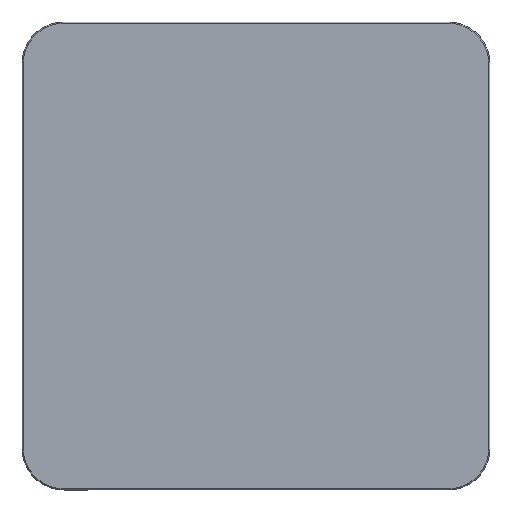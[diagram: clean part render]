
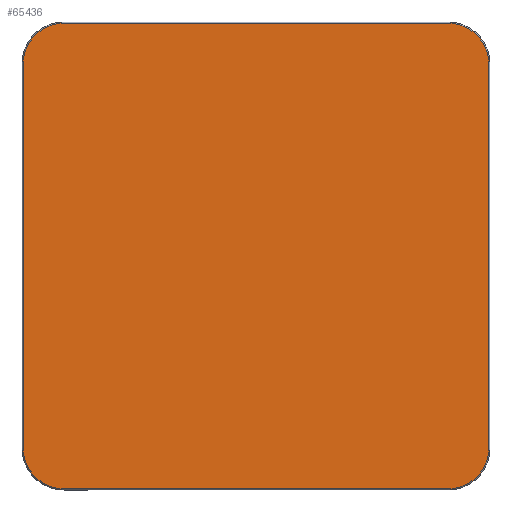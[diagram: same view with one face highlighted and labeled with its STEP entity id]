
A CAD part, top view. The second image highlights one B-rep face of the part: STEP entity #65436.
In plain terms, the highlighted planar face has unit normal (0, 0, 1) as drawn and (0, -1, 0) by its records, which use the part's own axes.
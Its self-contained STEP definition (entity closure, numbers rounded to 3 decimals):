
#6342=FACE_OUTER_BOUND('',#10155,.T.);
#10155=EDGE_LOOP('',(#49329,#49330,#49331,#49332,#49333,#49334,#49335,#49336));
#13434=CIRCLE('',#70560,7.4);
#13435=CIRCLE('',#70563,7.4);
#13437=CIRCLE('',#70567,7.4);
#13439=CIRCLE('',#70571,7.4);
#16230=LINE('',#108374,#22126);
#16233=LINE('',#108382,#22129);
#16237=LINE('',#108392,#22133);
#16241=LINE('',#108404,#22137);
#22126=VECTOR('',#79938,69.378);
#22129=VECTOR('',#79947,69.378);
#22133=VECTOR('',#79957,69.378);
#22137=VECTOR('',#79969,69.378);
#28451=VERTEX_POINT('',#108370);
#28452=VERTEX_POINT('',#108372);
#28453=VERTEX_POINT('',#108376);
#28454=VERTEX_POINT('',#108380);
#28455=VERTEX_POINT('',#108384);
#28456=VERTEX_POINT('',#108388);
#28458=VERTEX_POINT('',#108394);
#28460=VERTEX_POINT('',#108400);
#36109=EDGE_CURVE('',#28452,#28451,#16230,.T.);
#36111=EDGE_CURVE('',#28451,#28453,#13434,.T.);
#36113=EDGE_CURVE('',#28453,#28454,#16233,.T.);
#36115=EDGE_CURVE('',#28454,#28455,#13435,.T.);
#36118=EDGE_CURVE('',#28455,#28456,#16237,.T.);
#36121=EDGE_CURVE('',#28456,#28458,#13437,.T.);
#36124=EDGE_CURVE('',#28458,#28460,#16241,.T.);
#36126=EDGE_CURVE('',#28460,#28452,#13439,.T.);
#49329=ORIENTED_EDGE('',*,*,#36109,.F.);
#49330=ORIENTED_EDGE('',*,*,#36126,.F.);
#49331=ORIENTED_EDGE('',*,*,#36124,.F.);
#49332=ORIENTED_EDGE('',*,*,#36121,.F.);
#49333=ORIENTED_EDGE('',*,*,#36118,.F.);
#49334=ORIENTED_EDGE('',*,*,#36115,.F.);
#49335=ORIENTED_EDGE('',*,*,#36113,.F.);
#49336=ORIENTED_EDGE('',*,*,#36111,.F.);
#62722=PLANE('',#70575);
#65436=ADVANCED_FACE('',(#6342),#62722,.F.);
#70560=AXIS2_PLACEMENT_3D('',#108378,#79942,#79943);
#70563=AXIS2_PLACEMENT_3D('',#108386,#79951,#79952);
#70567=AXIS2_PLACEMENT_3D('',#108398,#79963,#79964);
#70571=AXIS2_PLACEMENT_3D('',#108407,#79974,#79975);
#70575=AXIS2_PLACEMENT_3D('',#108414,#79985,#79986);
#79938=DIRECTION('',(1.,0.,0.));
#79942=DIRECTION('center_axis',(0.,1.,0.));
#79943=DIRECTION('ref_axis',(1.,0.,0.));
#79947=DIRECTION('',(0.,0.,-1.));
#79951=DIRECTION('center_axis',(0.,1.,0.));
#79952=DIRECTION('ref_axis',(0.,0.,-1.));
#79957=DIRECTION('',(-1.,0.,0.));
#79963=DIRECTION('center_axis',(0.,1.,0.));
#79964=DIRECTION('ref_axis',(-1.,0.,0.));
#79969=DIRECTION('',(0.,0.,1.));
#79974=DIRECTION('center_axis',(0.,1.,0.));
#79975=DIRECTION('ref_axis',(0.,0.,1.));
#79985=DIRECTION('center_axis',(0.,1.,0.));
#79986=DIRECTION('ref_axis',(0.,0.,1.));
#108370=CARTESIAN_POINT('',(67.189,0.6,83.089));
#108372=CARTESIAN_POINT('',(-2.189,0.6,83.089));
#108374=CARTESIAN_POINT('',(-2.189,0.6,83.089));
#108376=CARTESIAN_POINT('',(74.589,0.6,75.689));
#108378=CARTESIAN_POINT('Origin',(67.189,0.6,75.689));
#108380=CARTESIAN_POINT('',(74.589,0.6,6.311));
#108382=CARTESIAN_POINT('',(74.589,0.6,75.689));
#108384=CARTESIAN_POINT('',(67.189,0.6,-1.089));
#108386=CARTESIAN_POINT('Origin',(67.189,0.6,6.311));
#108388=CARTESIAN_POINT('',(-2.189,0.6,-1.089));
#108392=CARTESIAN_POINT('',(67.189,0.6,-1.089));
#108394=CARTESIAN_POINT('',(-9.589,0.6,6.311));
#108398=CARTESIAN_POINT('Origin',(-2.189,0.6,6.311));
#108400=CARTESIAN_POINT('',(-9.589,0.6,75.689));
#108404=CARTESIAN_POINT('',(-9.589,0.6,6.311));
#108407=CARTESIAN_POINT('Origin',(-2.189,0.6,75.689));
#108414=CARTESIAN_POINT('Origin',(28.731,0.6,41.));
